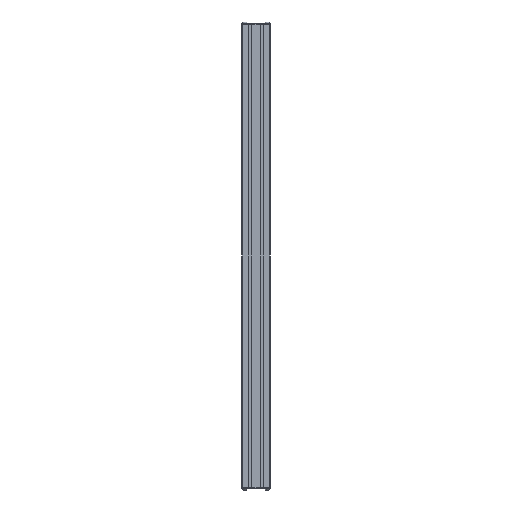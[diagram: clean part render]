
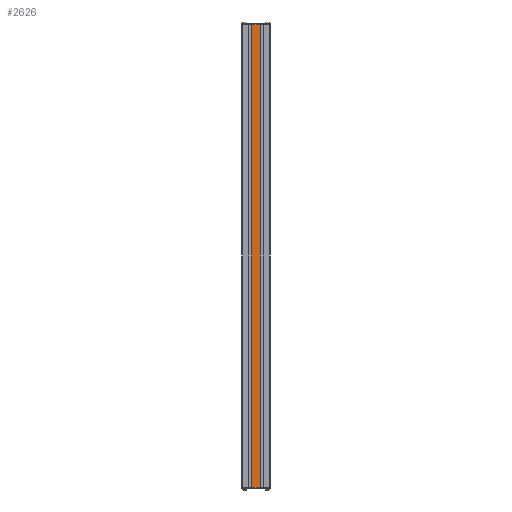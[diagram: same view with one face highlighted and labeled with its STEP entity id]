
A CAD part, front view. The second image highlights one B-rep face of the part: STEP entity #2626.
In plain terms, the highlighted planar face has unit normal (0, -1, 0).
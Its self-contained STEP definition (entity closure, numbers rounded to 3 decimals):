
#103 = CARTESIAN_POINT ( 'NONE',  ( -8.95, 0., -494. ) ) ;
#135 = LINE ( 'NONE', #4354, #7660 ) ;
#588 = ORIENTED_EDGE ( 'NONE', *, *, #6102, .T. ) ;
#805 = PLANE ( 'NONE',  #6925 ) ;
#1521 = ORIENTED_EDGE ( 'NONE', *, *, #5370, .T. ) ;
#1716 = VERTEX_POINT ( 'NONE', #7498 ) ;
#1843 = DIRECTION ( 'NONE',  ( 0., 0., -1. ) ) ;
#2071 = LINE ( 'NONE', #7559, #3031 ) ;
#2084 = CARTESIAN_POINT ( 'NONE',  ( -8.95, 0., 494. ) ) ;
#2626 = ADVANCED_FACE ( 'NONE', ( #5660 ), #805, .F. ) ;
#2827 = EDGE_CURVE ( 'NONE', #1716, #8855, #2071, .T. ) ;
#2913 = CARTESIAN_POINT ( 'NONE',  ( -8.95, 0., -494. ) ) ;
#3031 = VECTOR ( 'NONE', #6269, 1000. ) ;
#3388 = ORIENTED_EDGE ( 'NONE', *, *, #2827, .F. ) ;
#3533 = DIRECTION ( 'NONE',  ( 1., 0., 0. ) ) ;
#3573 = DIRECTION ( 'NONE',  ( 0., 1., 0. ) ) ;
#4354 = CARTESIAN_POINT ( 'NONE',  ( -8.95, 0., 494. ) ) ;
#5221 = CARTESIAN_POINT ( 'NONE',  ( -8.95, 0., 494. ) ) ;
#5370 = EDGE_CURVE ( 'NONE', #6286, #6843, #8053, .T. ) ;
#5525 = DIRECTION ( 'NONE',  ( 0., 0., 1. ) ) ;
#5660 = FACE_OUTER_BOUND ( 'NONE', #5726, .T. ) ;
#5726 = EDGE_LOOP ( 'NONE', ( #588, #3388, #8426, #1521 ) ) ;
#6037 = CARTESIAN_POINT ( 'NONE',  ( -8.95, 0., 494. ) ) ;
#6102 = EDGE_CURVE ( 'NONE', #6843, #8855, #7763, .T. ) ;
#6269 = DIRECTION ( 'NONE',  ( 0., 0., -1. ) ) ;
#6286 = VERTEX_POINT ( 'NONE', #5221 ) ;
#6843 = VERTEX_POINT ( 'NONE', #103 ) ;
#6925 = AXIS2_PLACEMENT_3D ( 'NONE', #2084, #3573, #5525 ) ;
#7472 = VECTOR ( 'NONE', #7812, 1000. ) ;
#7498 = CARTESIAN_POINT ( 'NONE',  ( 8.95, 0., 494. ) ) ;
#7559 = CARTESIAN_POINT ( 'NONE',  ( 8.95, 0., 494. ) ) ;
#7660 = VECTOR ( 'NONE', #3533, 1000. ) ;
#7763 = LINE ( 'NONE', #2913, #7472 ) ;
#7812 = DIRECTION ( 'NONE',  ( 1., 0., 0. ) ) ;
#8053 = LINE ( 'NONE', #6037, #8942 ) ;
#8197 = CARTESIAN_POINT ( 'NONE',  ( 8.95, 0., -494. ) ) ;
#8426 = ORIENTED_EDGE ( 'NONE', *, *, #8442, .F. ) ;
#8442 = EDGE_CURVE ( 'NONE', #6286, #1716, #135, .T. ) ;
#8855 = VERTEX_POINT ( 'NONE', #8197 ) ;
#8942 = VECTOR ( 'NONE', #1843, 1000. ) ;
